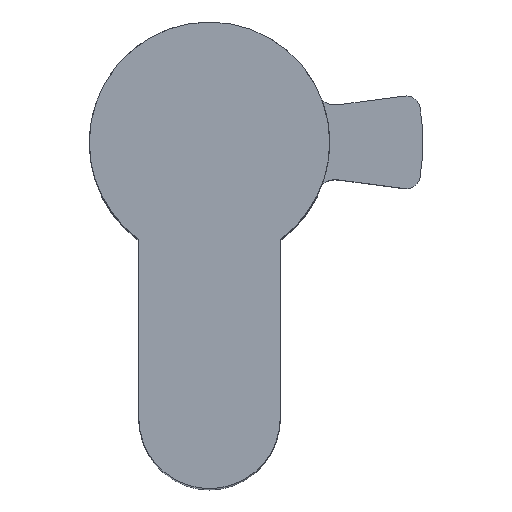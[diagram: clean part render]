
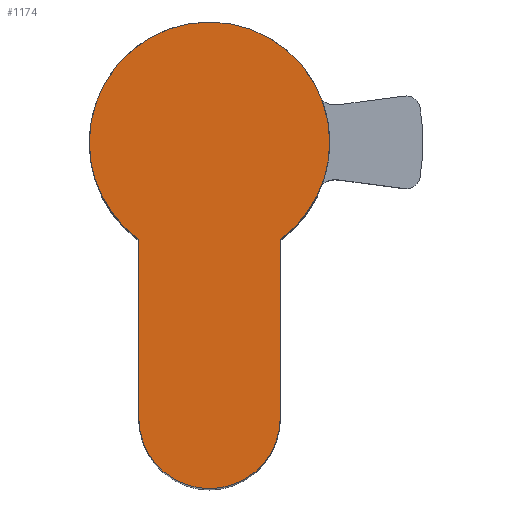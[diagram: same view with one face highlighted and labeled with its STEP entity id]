
A CAD part, top view. The second image highlights one B-rep face of the part: STEP entity #1174.
In plain terms, the highlighted planar face has unit normal (0, 0, 1).
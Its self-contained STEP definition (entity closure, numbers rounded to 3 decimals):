
#7 = DIRECTION ( 'NONE',  ( 0., 0., 1. ) ) ;
#11 = PLANE ( 'NONE',  #1078 ) ;
#41 = DIRECTION ( 'NONE',  ( 0., 1., 0. ) ) ;
#59 = CARTESIAN_POINT ( 'NONE',  ( -5., -19.5, 10. ) ) ;
#77 = VERTEX_POINT ( 'NONE', #1242 ) ;
#105 = CARTESIAN_POINT ( 'NONE',  ( 0., 0., 10. ) ) ;
#135 = EDGE_CURVE ( 'NONE', #265, #1318, #459, .T. ) ;
#169 = CARTESIAN_POINT ( 'NONE',  ( 8.5, 0., 10. ) ) ;
#175 = DIRECTION ( 'NONE',  ( 0., 0., 1. ) ) ;
#179 = ORIENTED_EDGE ( 'NONE', *, *, #834, .T. ) ;
#261 = VECTOR ( 'NONE', #41, 1000. ) ;
#265 = VERTEX_POINT ( 'NONE', #718 ) ;
#268 = EDGE_CURVE ( 'NONE', #77, #1080, #1444, .T. ) ;
#276 = DIRECTION ( 'NONE',  ( 1., 0., 0. ) ) ;
#331 = LINE ( 'NONE', #361, #866 ) ;
#345 = EDGE_CURVE ( 'NONE', #672, #265, #1362, .T. ) ;
#361 = CARTESIAN_POINT ( 'NONE',  ( -5., -6.874, 10. ) ) ;
#363 = CARTESIAN_POINT ( 'NONE',  ( 5., -19.5, 10. ) ) ;
#395 = CARTESIAN_POINT ( 'NONE',  ( 0., 0., 10. ) ) ;
#414 = AXIS2_PLACEMENT_3D ( 'NONE', #1245, #640, #908 ) ;
#459 = CIRCLE ( 'NONE', #661, 8.5 ) ;
#504 = CARTESIAN_POINT ( 'NONE',  ( 5., -19.5, 10. ) ) ;
#516 = DIRECTION ( 'NONE',  ( 1., 0., 0. ) ) ;
#549 = EDGE_LOOP ( 'NONE', ( #753, #1221, #946, #829, #179, #922 ) ) ;
#586 = AXIS2_PLACEMENT_3D ( 'NONE', #865, #1463, #516 ) ;
#589 = CARTESIAN_POINT ( 'NONE',  ( -5., -6.874, 10. ) ) ;
#640 = DIRECTION ( 'NONE',  ( 0., 0., 1. ) ) ;
#661 = AXIS2_PLACEMENT_3D ( 'NONE', #1136, #175, #790 ) ;
#672 = VERTEX_POINT ( 'NONE', #363 ) ;
#705 = DIRECTION ( 'NONE',  ( 0., -1., 0. ) ) ;
#718 = CARTESIAN_POINT ( 'NONE',  ( 5., -6.874, 10. ) ) ;
#748 = FACE_OUTER_BOUND ( 'NONE', #549, .T. ) ;
#753 = ORIENTED_EDGE ( 'NONE', *, *, #135, .T. ) ;
#790 = DIRECTION ( 'NONE',  ( 1., 0., 0. ) ) ;
#813 = CIRCLE ( 'NONE', #414, 5. ) ;
#829 = ORIENTED_EDGE ( 'NONE', *, *, #1020, .T. ) ;
#834 = EDGE_CURVE ( 'NONE', #1285, #672, #813, .T. ) ;
#865 = CARTESIAN_POINT ( 'NONE',  ( 0., 0., 10. ) ) ;
#866 = VECTOR ( 'NONE', #705, 1000. ) ;
#908 = DIRECTION ( 'NONE',  ( 1., 0., 0. ) ) ;
#922 = ORIENTED_EDGE ( 'NONE', *, *, #345, .T. ) ;
#946 = ORIENTED_EDGE ( 'NONE', *, *, #268, .T. ) ;
#1020 = EDGE_CURVE ( 'NONE', #1080, #1285, #331, .T. ) ;
#1074 = AXIS2_PLACEMENT_3D ( 'NONE', #105, #7, #1430 ) ;
#1078 = AXIS2_PLACEMENT_3D ( 'NONE', #395, #1364, #276 ) ;
#1080 = VERTEX_POINT ( 'NONE', #589 ) ;
#1136 = CARTESIAN_POINT ( 'NONE',  ( 0., 0., 10. ) ) ;
#1142 = EDGE_CURVE ( 'NONE', #1318, #77, #1353, .T. ) ;
#1174 = ADVANCED_FACE ( 'NONE', ( #748 ), #11, .T. ) ;
#1221 = ORIENTED_EDGE ( 'NONE', *, *, #1142, .T. ) ;
#1242 = CARTESIAN_POINT ( 'NONE',  ( -8.5, 0., 10. ) ) ;
#1245 = CARTESIAN_POINT ( 'NONE',  ( 0., -19.5, 10. ) ) ;
#1285 = VERTEX_POINT ( 'NONE', #59 ) ;
#1318 = VERTEX_POINT ( 'NONE', #169 ) ;
#1353 = CIRCLE ( 'NONE', #586, 8.5 ) ;
#1362 = LINE ( 'NONE', #504, #261 ) ;
#1364 = DIRECTION ( 'NONE',  ( 0., 0., 1. ) ) ;
#1430 = DIRECTION ( 'NONE',  ( 1., 0., 0. ) ) ;
#1444 = CIRCLE ( 'NONE', #1074, 8.5 ) ;
#1463 = DIRECTION ( 'NONE',  ( 0., 0., 1. ) ) ;
